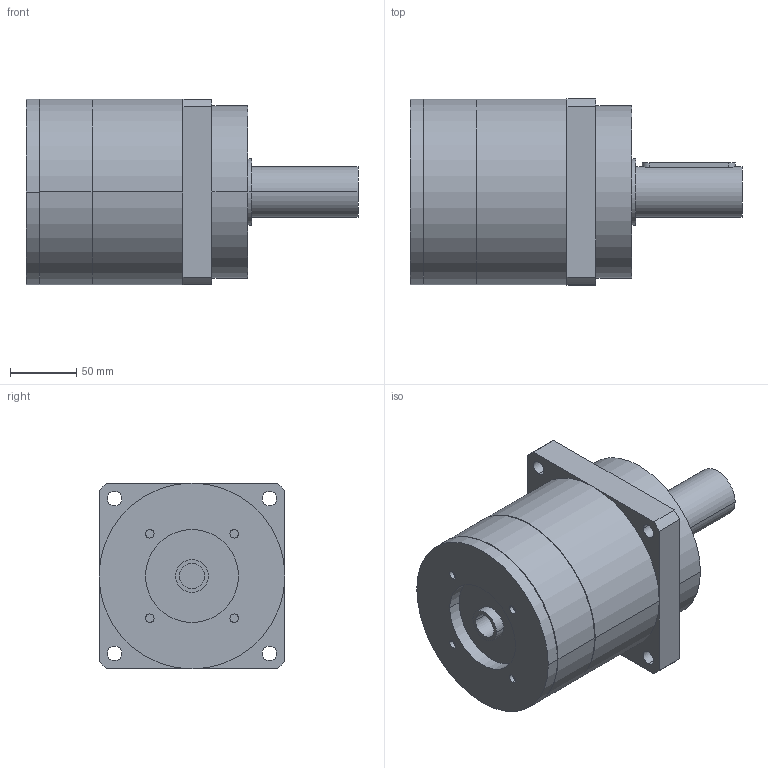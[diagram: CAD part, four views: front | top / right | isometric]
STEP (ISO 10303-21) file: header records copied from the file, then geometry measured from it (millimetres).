
FILE_DESCRIPTION(('CoCreate Modeling STEP Export'),'2;1');
FILE_NAME('GPR150_ig-3-4-5-7_38_B5_19_P15.stp','2014-08-19T16:42:16',(''),(''),'CoCreate Modeling STEP processor for AP214 (Solid Model)','CoCreate Modeling 16.00C 25-Feb-2009 (C) Parametric Technology GmbH','');
FILE_SCHEMA(('AUTOMOTIVE_DESIGN { 1 0 10303 214 1 1 1 1 }'));
Length unit declared in the file: millimetre
Products named in the file (2): GPR150_ig-3-4-5-7_38_B5_19_P15
Assembly tree (1 placements, depth 2):
  GPR150_ig-3-4-5-7_38_B5_19_P15
    GPR150_ig-3-4-5-7_38_B5_19_P15
Bounding box: 250 x 140 x 140 mm (x, y, z)
Volume: 2645173.2 mm3; surface area: 134382.3 mm2
Topology: 1 solids, 1 shells, 85 faces, 217 edges, 149 vertices
Faces by surface type: cylinder 50, plane 29, cone 6
Entity records: 2262 total; most frequent: ORIENTED_EDGE 430, CARTESIAN_POINT 416, DIRECTION 312, EDGE_CURVE 215, VERTEX_POINT 149, AXIS2_PLACEMENT_3D 117, EDGE_LOOP 110, FACE_OUTER_BOUND 85
